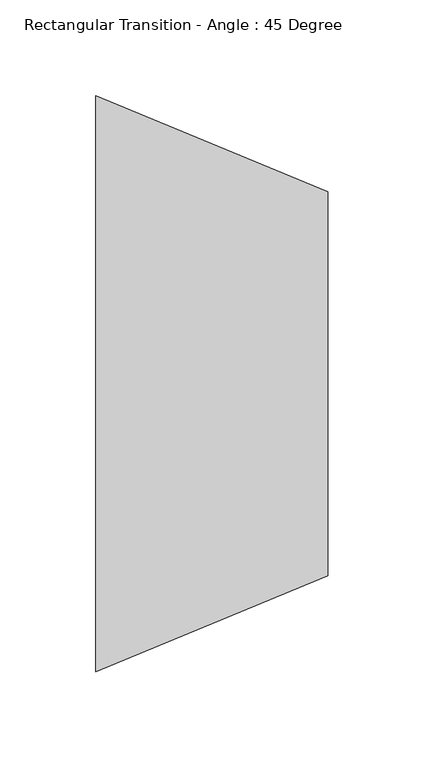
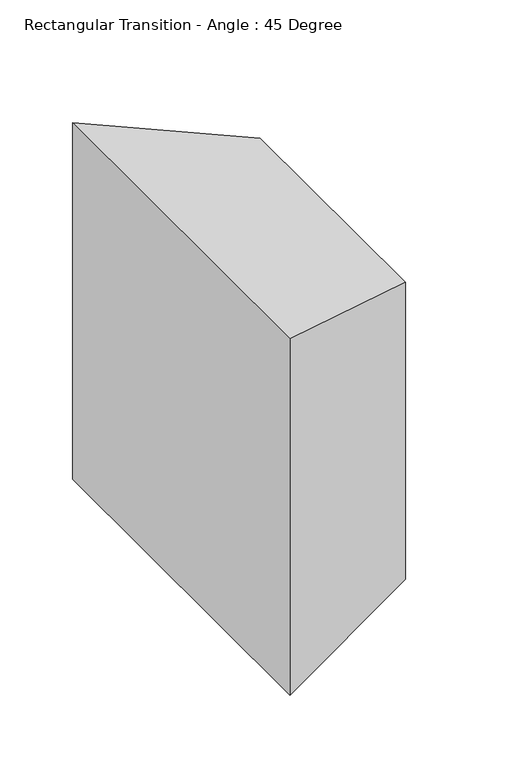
"""IFC4 building model written with IfcOpenShell, lengths in millimetres: duct fitting geometry, Rectangular Transition - Angle : 45 Degree."""

from ifc_helpers import new_model, si_unit, origin, place, context, project, spatial, faceted_brep, source, transform, mapped, element, save


def rectangular_transition_angle_45_degree_7a9f45a1(model_context):
    return source(origin(), model_context, "Body", "Brep", [
        faceted_brep([(120.7106781, -100.0, 125.0), (120.7106781, -100.0, -125.0), (120.7106781, 100.0, -125.0), (120.7106781, 100.0, 125.0), (0.0, -150.0, 150.0), (0.0, 150.0, 150.0), (0.0, 150.0, -150.0), (0.0, -150.0, -150.0)], [[[0, 1, 2, 3]], [[4, 5, 6, 7]], [[4, 7, 1, 0]], [[7, 6, 2, 1]], [[6, 5, 3, 2]], [[5, 4, 0, 3]]]),
    ])


if __name__ == "__main__":
    model = new_model("IFC4")
    model_context = context("Model", 3, world=origin())
    ifc_project = project(units=[si_unit("LENGTHUNIT", "METRE", prefix="MILLI")], contexts=[model_context])
    site = spatial("IfcSite", under=ifc_project)
    building = spatial("IfcBuilding", under=site)
    placement = place(None, origin())
    rectangular_transition_angle_45_degree_shape = rectangular_transition_angle_45_degree_7a9f45a1(model_context)
    element("IfcDuctFitting", 1, ObjectType="Rectangular Transition - Angle : 45 Degree", at=placement, inside=building, context=model_context, shape_type="MappedRepresentation", body=[
        mapped(rectangular_transition_angle_45_degree_shape, transform((0.0, 0.0, 0.0), x_axis=(1.0, 0.0, 0.0), y_axis=(0.0, 1.0, 0.0), z_axis=(0.0, 0.0, 1.0))),
    ])
    save(model, "model.ifc")
